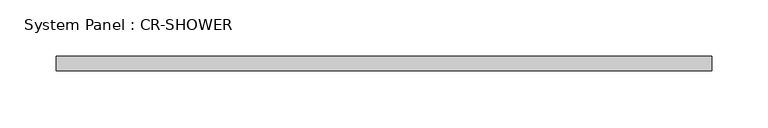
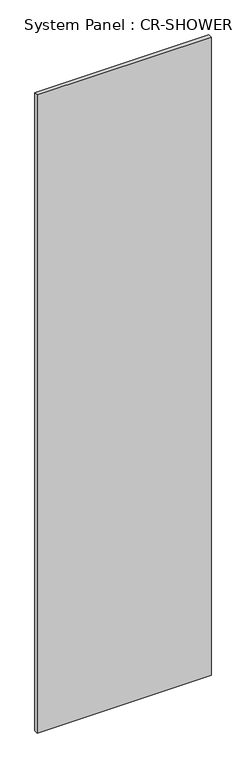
"""IFC4 building model written with IfcOpenShell, lengths in millimetres: plate geometry, System Panel : CR-SHOWER."""

import ifcopenshell
import ifcopenshell.guid

model = None  # the IFC model being written
_history = None  # IfcOwnerHistory: only IFC2X3 demands one
_inside = {}  # id of a spatial element -> (the spatial element, [elements in it])
_under = {}  # id of a project, library or spatial element -> (it, [spatial elements below it])
_declared = {}  # id of a project -> (the project, [libraries it declares])
_typed = {}  # id of a type object -> (the type object, [elements of that type])
_made_of = {}  # id of a material, layer set ... -> (it, [elements and type objects made of it])


def new_model(schema):
    """Start an empty IFC model of exactly this schema.

    Asked for "IFC4X3", IfcOpenShell would pick the latest addendum, in which some entities
    have other attributes; the version numbers below select the first issue.
    IFC2X3 requires an IfcOwnerHistory on every rooted entity: one is made here for all.
    """
    global model, _history
    if schema == "IFC4X3":
        model = ifcopenshell.file(schema_version=(4, 3, 0, 0))
    else:
        model = ifcopenshell.file(schema=schema)
    _inside.clear()
    _under.clear()
    _declared.clear()
    _typed.clear()
    _made_of.clear()
    _history = None
    if model.schema == "IFC2X3":
        org = make("IfcOrganization", Name="unknown")
        user = make(
            "IfcPersonAndOrganization",
            ThePerson=make("IfcPerson", FamilyName="unknown"),
            TheOrganization=org,
        )
        app = make(
            "IfcApplication",
            ApplicationDeveloper=org,
            Version="unknown",
            ApplicationFullName="unknown",
            ApplicationIdentifier="unknown",
        )
        _history = make(
            "IfcOwnerHistory",
            OwningUser=user,
            OwningApplication=app,
            ChangeAction="ADDED",
            CreationDate=0,
        )
    return model


def make(cls, **values):
    """One entity of the class cls with the attributes given. An attribute that is None is left unset."""
    return model.create_entity(
        cls, **{name: value for name, value in values.items() if value is not None}
    )


def rooted(cls, **values):
    """An entity with a GlobalId (a new one), such as an element, a storey or a relation."""
    return make(cls, GlobalId=ifcopenshell.guid.new(), OwnerHistory=_history, **values)


def si_unit(unit_type, name, prefix=None):
    """IfcSIUnit, for example si_unit("LENGTHUNIT", "METRE", prefix="MILLI")."""
    return make("IfcSIUnit", UnitType=unit_type, Prefix=prefix, Name=name)


def assignment(units):
    """IfcUnitAssignment: the units of a project."""
    return None if units is None else make("IfcUnitAssignment", Units=units)


def point(xyz):
    """IfcCartesianPoint."""
    return None if xyz is None else make("IfcCartesianPoint", Coordinates=xyz)


def direction(xyz):
    """IfcDirection."""
    return None if xyz is None else make("IfcDirection", DirectionRatios=xyz)


def frame(location, z_axis=None, x_axis=None):
    """IfcAxis2Placement3D, a coordinate frame: its origin and axes. An axis left out is left unset."""
    return make(
        "IfcAxis2Placement3D",
        Location=point(location),
        Axis=direction(z_axis),
        RefDirection=direction(x_axis),
    )


def origin():
    """The frame at (0, 0, 0) with its axes left unset."""
    return frame((0.0, 0.0, 0.0))


def origin_with_axes():
    """The frame at (0, 0, 0) with the z axis (0, 0, 1) and the x axis (1, 0, 0) written out."""
    return frame((0.0, 0.0, 0.0), z_axis=(0.0, 0.0, 1.0), x_axis=(1.0, 0.0, 0.0))


def place(relative_to, where):
    """IfcLocalPlacement: puts the frame where relative to a parent placement (None: the world)."""
    return make(
        "IfcLocalPlacement", PlacementRelTo=relative_to, RelativePlacement=where
    )


def context(
    kind, dimensions, precision=None, world=None, true_north=None, identifier=None
):
    """IfcGeometricRepresentationContext, for example the 3D "Model" context."""
    return make(
        "IfcGeometricRepresentationContext",
        ContextIdentifier=identifier,
        ContextType=kind,
        CoordinateSpaceDimension=dimensions,
        Precision=precision,
        WorldCoordinateSystem=world,
        TrueNorth=true_north,
    )


def project(units=None, contexts=None):
    """IfcProject with its units and contexts."""
    return rooted(
        "IfcProject",
        Name="project",
        RepresentationContexts=contexts,
        UnitsInContext=assignment(units),
    )


def spatial(cls, under=None, at=None, **own):
    """A site, building, storey or space (cls), placed at a placement, below another one or the project."""
    s = rooted(cls, ObjectPlacement=at, **own)
    if under is not None:
        _under.setdefault(under.id(), (under, []))[1].append(s)
    return s


def polyline(points):
    """IfcPolyline through the points."""
    return make("IfcPolyline", Points=[point(p) for p in points])


def outline(outer, holes=None, kind="AREA"):
    """IfcArbitraryClosedProfileDef: a profile drawn as a closed curve; with holes, ...WithVoids."""
    if holes is None:
        return make("IfcArbitraryClosedProfileDef", ProfileType=kind, OuterCurve=outer)
    return make(
        "IfcArbitraryProfileDefWithVoids",
        ProfileType=kind,
        OuterCurve=outer,
        InnerCurves=holes,
    )


def extrude(swept, where, along, depth):
    """IfcExtrudedAreaSolid: the profile swept, set in the frame where, extruded along a direction by depth."""
    return make(
        "IfcExtrudedAreaSolid",
        SweptArea=swept,
        Position=where,
        ExtrudedDirection=direction(along),
        Depth=depth,
    )


def shape(context_of_items, identifier, shape_type, items):
    """IfcShapeRepresentation: the items that make up one representation, for example the "Body"."""
    return make(
        "IfcShapeRepresentation",
        ContextOfItems=context_of_items,
        RepresentationIdentifier=identifier,
        RepresentationType=shape_type,
        Items=items,
    )


def source(mapping_origin, context_of_items, identifier, shape_type, items):
    """IfcRepresentationMap: a shape defined once, which mapped items show again and again."""
    return make(
        "IfcRepresentationMap",
        MappingOrigin=mapping_origin,
        MappedRepresentation=shape(context_of_items, identifier, shape_type, items),
    )


def transform(
    local_origin,
    x_axis=None,
    y_axis=None,
    z_axis=None,
    scale=None,
    scale2=None,
    scale3=None,
    uniform=True,
):
    """IfcCartesianTransformationOperator3D, or its non-uniform kind. x_axis, y_axis, z_axis: its Axis1, 2, 3."""
    if uniform:
        return make(
            "IfcCartesianTransformationOperator3D",
            Axis1=direction(x_axis),
            Axis2=direction(y_axis),
            LocalOrigin=point(local_origin),
            Scale=scale,
            Axis3=direction(z_axis),
        )
    return make(
        "IfcCartesianTransformationOperator3DnonUniform",
        Axis1=direction(x_axis),
        Axis2=direction(y_axis),
        LocalOrigin=point(local_origin),
        Scale=scale,
        Axis3=direction(z_axis),
        Scale2=scale2,
        Scale3=scale3,
    )


def mapped(mapping_source, mapping_target):
    """IfcMappedItem: shows the shape of a source again, moved by a transform."""
    return make(
        "IfcMappedItem", MappingSource=mapping_source, MappingTarget=mapping_target
    )


def made_of(thing, what):
    """Note that an element or type object is made of a material, layer set ...; save() writes the relation."""
    if what is not None:
        _made_of.setdefault(what.id(), (what, []))[1].append(thing)
    return thing


def element(
    cls,
    number,
    at=None,
    inside=None,
    cuts=None,
    type_object=None,
    material=None,
    context=None,
    identifier="Body",
    shape_type=None,
    held_by="IfcProductDefinitionShape",
    body=None,
    shapes=None,
    **own,
):
    """One element of the class cls, such as IfcWall. Its Tag is "e" and its number.

    at: its placement. inside: the storey or other place that contains it. cuts: it is an
    opening in that element (IfcRelVoidsElement). A single representation is given by context,
    identifier, shape_type and body (its items); several are given by shapes. held_by: the class
    of the entity that holds the representations. save() writes the other relations.
    """
    e = rooted(cls, Tag="e%d" % number, ObjectPlacement=at, **own)
    if body is not None:
        shapes = [shape(context, identifier, shape_type, body)]
    if shapes is not None:
        e.Representation = make(held_by, Representations=shapes)
    if inside is not None:
        _inside.setdefault(inside.id(), (inside, []))[1].append(e)
    if cuts is not None:
        rooted(
            "IfcRelVoidsElement", RelatingBuildingElement=cuts, RelatedOpeningElement=e
        )
    if type_object is not None:
        _typed.setdefault(type_object.id(), (type_object, []))[1].append(e)
    return made_of(e, material)


def aggregate(whole, parts):
    """IfcRelAggregates: a whole, such as a stair, and the parts it consists of."""
    return rooted("IfcRelAggregates", RelatingObject=whole, RelatedObjects=parts)


def save(model, path):
    """Write the relations noted so far, then the file.

    IfcRelAggregates (storeys below a building ...), IfcRelContainedInSpatialStructure (elements
    in a storey), IfcRelDefinesByType, IfcRelAssociatesMaterial and IfcRelDeclares: one each for
    every whole, place, type object, material and project.
    """
    for whole, parts in _under.values():
        aggregate(whole, parts)
    for where, things in _inside.values():
        rooted(
            "IfcRelContainedInSpatialStructure",
            RelatedElements=things,
            RelatingStructure=where,
        )
    for kind, things in _typed.values():
        rooted("IfcRelDefinesByType", RelatedObjects=things, RelatingType=kind)
    for what, things in _made_of.values():
        rooted("IfcRelAssociatesMaterial", RelatedObjects=things, RelatingMaterial=what)
    for by, libraries in _declared.values():
        rooted("IfcRelDeclares", RelatingContext=by, RelatedDefinitions=libraries)
    model.write(path)


def system_panel_cr_shower_8ff19449(model_context):
    return source(origin(), model_context, "Body", "SweptSolid", [
        extrude(outline(polyline([(290.0, -0.05), (-290.0, -0.05), (-290.0, 12.45), (290.0, 12.45), (290.0, -0.05)])), origin_with_axes(), (0.0, 0.0, 1.0), 2250.0),
    ])


if __name__ == "__main__":
    model = new_model("IFC4")
    model_context = context("Model", 3, world=origin())
    ifc_project = project(units=[si_unit("LENGTHUNIT", "METRE", prefix="MILLI")], contexts=[model_context])
    site = spatial("IfcSite", under=ifc_project)
    building = spatial("IfcBuilding", under=site)
    placement = place(None, origin())
    system_panel_cr_shower_shape = system_panel_cr_shower_8ff19449(model_context)
    element("IfcPlate", 1, ObjectType="System Panel : CR-SHOWER", at=placement, inside=building, context=model_context, shape_type="MappedRepresentation", body=[
        mapped(system_panel_cr_shower_shape, transform((0.0, 0.0, 0.0), x_axis=(1.0, 0.0, 0.0), y_axis=(0.0, 1.0, 0.0), z_axis=(0.0, 0.0, 1.0))),
    ])
    save(model, "model.ifc")
